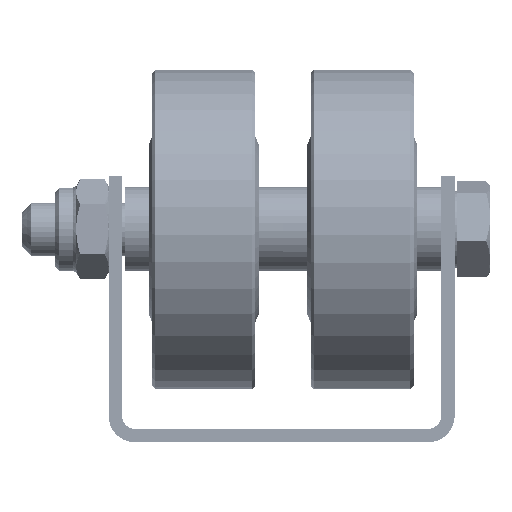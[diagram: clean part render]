
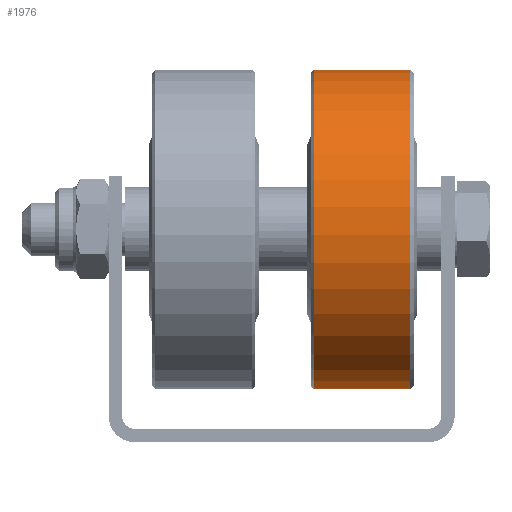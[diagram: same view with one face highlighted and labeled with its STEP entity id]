
A CAD part, front view. The second image highlights one B-rep face of the part: STEP entity #1976.
In plain terms, the highlighted cylindrical face has radius 24 mm (diameter 48 mm), a full revolution.
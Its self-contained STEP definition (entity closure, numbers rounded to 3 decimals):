
#1976 = ADVANCED_FACE( '', ( #3393, #3394 ), #3395, .T. );
#3393 = FACE_OUTER_BOUND( '', #4843, .T. );
#3394 = FACE_OUTER_BOUND( '', #4844, .T. );
#3395 = CYLINDRICAL_SURFACE( '', #4845, 24. );
#4843 = EDGE_LOOP( '', ( #6604 ) );
#4844 = EDGE_LOOP( '', ( #6605 ) );
#4845 = AXIS2_PLACEMENT_3D( '', #6606, #6607, #6608 );
#6604 = ORIENTED_EDGE( '', *, *, #8556, .T. );
#6605 = ORIENTED_EDGE( '', *, *, #8557, .T. );
#6606 = CARTESIAN_POINT( '', ( 0., -7.75, 0. ) );
#6607 = DIRECTION( '', ( 0., -1., 0. ) );
#6608 = DIRECTION( '', ( 0., 0., 1. ) );
#8556 = EDGE_CURVE( '', #9674, #9674, #9675, .F. );
#8557 = EDGE_CURVE( '', #9676, #9676, #9677, .T. );
#9674 = VERTEX_POINT( '', #11274 );
#9675 = CIRCLE( '', #11275, 24. );
#9676 = VERTEX_POINT( '', #11276 );
#9677 = CIRCLE( '', #11277, 24. );
#11274 = CARTESIAN_POINT( '', ( 0., 7.25, 24. ) );
#11275 = AXIS2_PLACEMENT_3D( '', #12708, #12709, #12710 );
#11276 = CARTESIAN_POINT( '', ( 0., -7.25, 24. ) );
#11277 = AXIS2_PLACEMENT_3D( '', #12711, #12712, #12713 );
#12708 = CARTESIAN_POINT( '', ( 0., 7.25, 0. ) );
#12709 = DIRECTION( '', ( 0., 1., 0. ) );
#12710 = DIRECTION( '', ( 0., 0., 1. ) );
#12711 = CARTESIAN_POINT( '', ( 0., -7.25, 0. ) );
#12712 = DIRECTION( '', ( 0., 1., 0. ) );
#12713 = DIRECTION( '', ( 0., 0., 1. ) );
